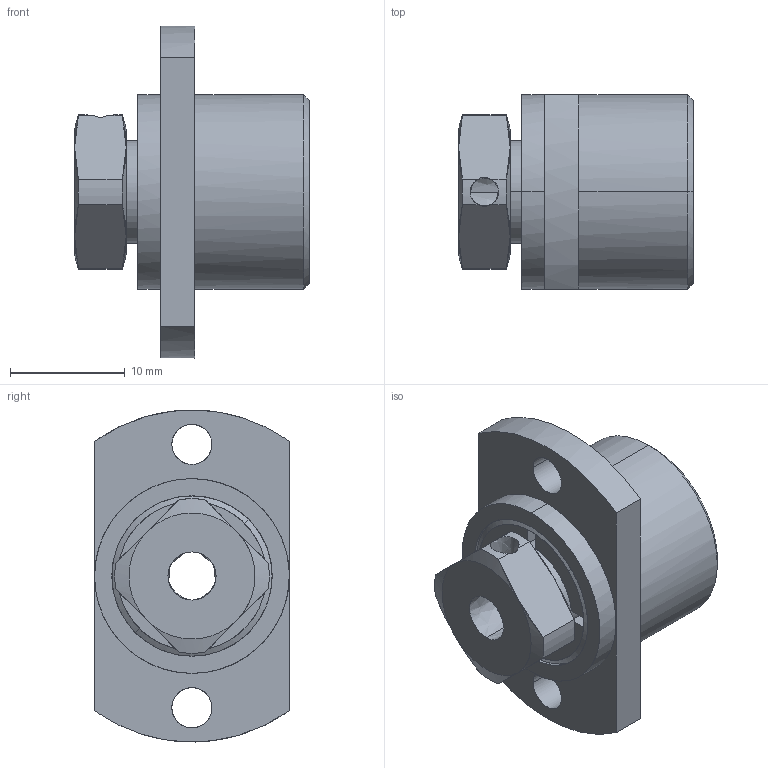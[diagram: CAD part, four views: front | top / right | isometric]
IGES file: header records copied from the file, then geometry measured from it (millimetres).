
Global section: native system: Kubotek KeyCreator; preprocessor: KCM Version 1.1.1442.0; author: KeyCreator User; organization: Self; date: 20210430.045621; units: millimetre
Bounding box: 20.5 x 17 x 28.99 mm (x, y, z)
Surface area: 2739.1 mm2 (no closed solid volume)
Topology: 0 solids, 0 shells, 83 faces, 541 edges, 541 vertices
Faces by surface type: bspline 83
